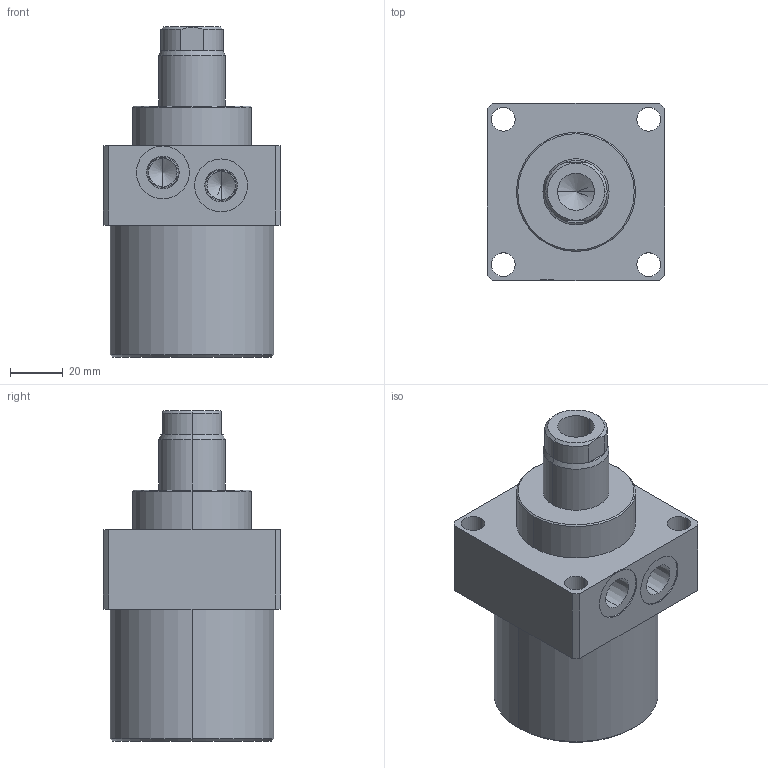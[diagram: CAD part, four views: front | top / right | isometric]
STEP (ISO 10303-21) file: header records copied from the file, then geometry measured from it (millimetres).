
FILE_DESCRIPTION (( 'STEP AP203' ), '1' );
FILE_NAME ('4311 511 521.STEP', '2016-01-28T12:16:51', ( '' ), ( '' ), 'SwSTEP 2.0', 'SolidWorks 2015', '' );
FILE_SCHEMA (( 'CONFIG_CONTROL_DESIGN' ));
Length unit declared in the file: millimetre
Products named in the file (1): 4311 511 521
Bounding box: 67 x 67 x 125 mm (x, y, z)
Volume: 305622.1 mm3; surface area: 36625.9 mm2
Topology: 1 solids, 1 shells, 66 faces, 157 edges, 97 vertices
Faces by surface type: cylinder 31, cone 18, plane 17
Entity records: 2002 total; most frequent: DIRECTION 359, CARTESIAN_POINT 349, ORIENTED_EDGE 302, EDGE_CURVE 151, AXIS2_PLACEMENT_3D 147, VERTEX_POINT 97, EDGE_LOOP 84, CIRCLE 80
